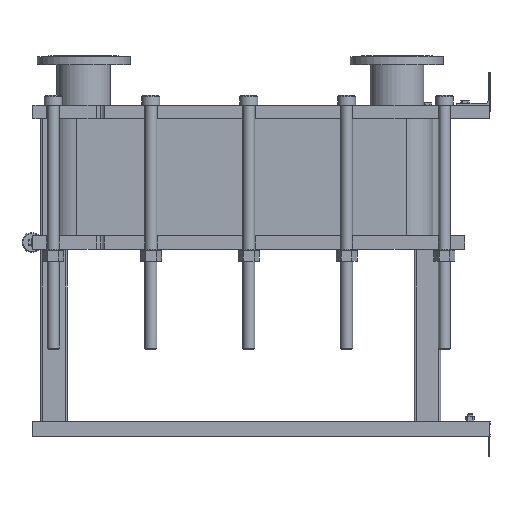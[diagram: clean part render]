
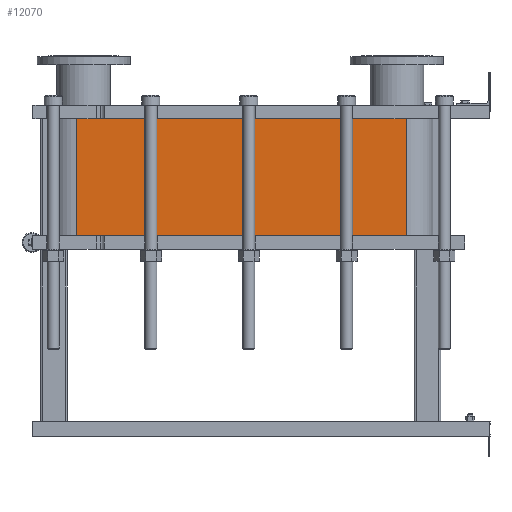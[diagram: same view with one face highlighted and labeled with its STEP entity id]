
A CAD part, left-side view. The second image highlights one B-rep face of the part: STEP entity #12070.
In plain terms, the highlighted planar face has unit normal (-1, 0, 0).
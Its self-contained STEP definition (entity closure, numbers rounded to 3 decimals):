
#1064=LINE('',#21140,#2164);
#1065=LINE('',#21144,#2165);
#1066=LINE('',#21146,#2166);
#1067=LINE('',#21147,#2167);
#2164=VECTOR('',#15790,10.);
#2165=VECTOR('',#15795,10.);
#2166=VECTOR('',#15796,10.);
#2167=VECTOR('',#15797,10.);
#3304=FACE_OUTER_BOUND('',#4091,.T.);
#4091=EDGE_LOOP('',(#9793,#9794,#9795,#9796));
#5677=VERTEX_POINT('',#21137);
#5678=VERTEX_POINT('',#21139);
#5679=VERTEX_POINT('',#21143);
#5680=VERTEX_POINT('',#21145);
#7118=EDGE_CURVE('',#5678,#5677,#1064,.T.);
#7120=EDGE_CURVE('',#5677,#5679,#1065,.T.);
#7121=EDGE_CURVE('',#5680,#5679,#1066,.T.);
#7122=EDGE_CURVE('',#5680,#5678,#1067,.T.);
#9793=ORIENTED_EDGE('',*,*,#7120,.T.);
#9794=ORIENTED_EDGE('',*,*,#7121,.F.);
#9795=ORIENTED_EDGE('',*,*,#7122,.T.);
#9796=ORIENTED_EDGE('',*,*,#7118,.T.);
#11441=PLANE('',#13191);
#12070=ADVANCED_FACE('',(#3304),#11441,.T.);
#13191=AXIS2_PLACEMENT_3D('',#21142,#15793,#15794);
#15790=DIRECTION('',(0.,0.,-1.));
#15793=DIRECTION('center_axis',(-1.,0.,0.));
#15794=DIRECTION('ref_axis',(0.,1.,0.));
#15795=DIRECTION('',(0.,-1.,0.));
#15796=DIRECTION('',(0.,0.,-1.));
#15797=DIRECTION('',(0.,1.,0.));
#21137=CARTESIAN_POINT('',(-248.152,1243.818,-351.9));
#21139=CARTESIAN_POINT('',(-248.152,1243.818,0.));
#21140=CARTESIAN_POINT('',(-248.152,1243.818,0.));
#21142=CARTESIAN_POINT('Origin',(-248.152,251.818,0.));
#21143=CARTESIAN_POINT('',(-248.152,251.818,-351.9));
#21144=CARTESIAN_POINT('',(-248.152,499.818,-351.9));
#21145=CARTESIAN_POINT('',(-248.152,251.818,0.));
#21146=CARTESIAN_POINT('',(-248.152,251.818,0.));
#21147=CARTESIAN_POINT('',(-248.152,251.818,0.));
